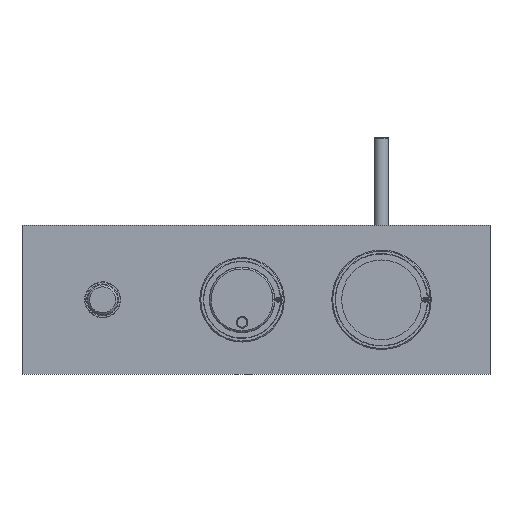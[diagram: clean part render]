
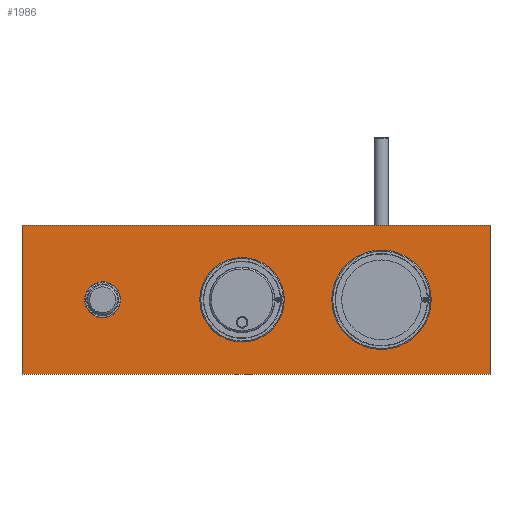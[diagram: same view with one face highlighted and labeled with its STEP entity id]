
A CAD part, front view. The second image highlights one B-rep face of the part: STEP entity #1986.
In plain terms, the highlighted planar face has unit normal (0, -1, 0).
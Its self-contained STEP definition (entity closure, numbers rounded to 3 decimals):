
#1907=DIRECTION('',(-1.,0.,0.));
#1908=VECTOR('',#1907,235.);
#1909=CARTESIAN_POINT('',(54.5,13.9,-37.5));
#1910=LINE('',#1909,#1908);
#1911=DIRECTION('',(0.,0.,1.));
#1912=VECTOR('',#1911,75.);
#1913=CARTESIAN_POINT('',(-180.5,13.9,-37.5));
#1914=LINE('',#1913,#1912);
#1915=DIRECTION('',(1.,0.,0.));
#1916=VECTOR('',#1915,235.);
#1917=CARTESIAN_POINT('',(-180.5,13.9,37.5));
#1918=LINE('',#1917,#1916);
#1919=DIRECTION('',(0.,0.,-1.));
#1920=VECTOR('',#1919,75.);
#1921=CARTESIAN_POINT('',(54.5,13.9,37.5));
#1922=LINE('',#1921,#1920);
#1955=CARTESIAN_POINT('',(54.5,13.9,-37.5));
#1956=CARTESIAN_POINT('',(-180.5,13.9,-37.5));
#1957=VERTEX_POINT('',#1955);
#1958=VERTEX_POINT('',#1956);
#1959=CARTESIAN_POINT('',(-180.5,13.9,37.5));
#1960=CARTESIAN_POINT('',(54.5,13.9,37.5));
#1961=VERTEX_POINT('',#1959);
#1962=VERTEX_POINT('',#1960);
#1971=CARTESIAN_POINT('',(-63.,13.9,0.));
#1972=DIRECTION('',(0.,1.,0.));
#1973=DIRECTION('',(0.,0.,1.));
#1974=AXIS2_PLACEMENT_3D('',#1971,#1972,#1973);
#1975=PLANE('',#1974);
#1977=ORIENTED_EDGE('',*,*,#1976,.T.);
#1979=ORIENTED_EDGE('',*,*,#1978,.T.);
#1981=ORIENTED_EDGE('',*,*,#1980,.T.);
#1983=ORIENTED_EDGE('',*,*,#1982,.T.);
#1984=EDGE_LOOP('',(#1977,#1979,#1981,#1983));
#1985=FACE_OUTER_BOUND('',#1984,.F.);
#1986=ADVANCED_FACE('',(#1985),#1975,.F.);
#1976=EDGE_CURVE('',#1957,#1958,#1910,.T.);
#1978=EDGE_CURVE('',#1958,#1961,#1914,.T.);
#1980=EDGE_CURVE('',#1961,#1962,#1918,.T.);
#1982=EDGE_CURVE('',#1962,#1957,#1922,.T.);
